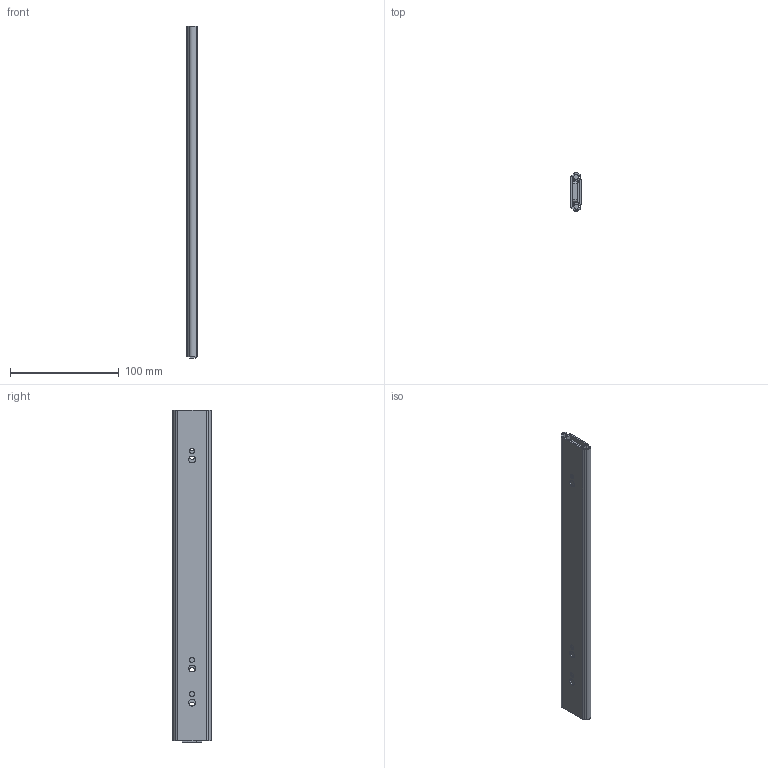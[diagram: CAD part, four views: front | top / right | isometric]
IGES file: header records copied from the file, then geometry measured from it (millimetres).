
Global section: file name: DR_L2-300; native system: Autodesk Inventor 2015; preprocessor: unknown; author: user; date: 20170928.104120; units: millimetre
Bounding box: 9.55 x 35.3 x 306 mm (x, y, z)
Volume: 42209.5 mm3; surface area: 60077.9 mm2
Topology: 3 solids, 3 shells, 115 faces, 322 edges, 214 vertices
Faces by surface type: bspline 115
